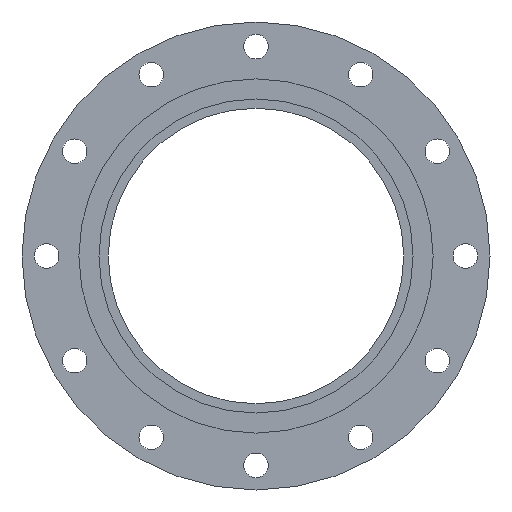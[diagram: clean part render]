
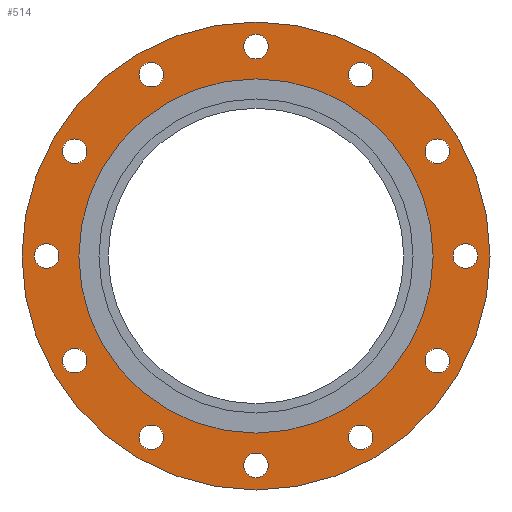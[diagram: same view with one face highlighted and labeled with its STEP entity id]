
A CAD part, left-side view. The second image highlights one B-rep face of the part: STEP entity #514.
In plain terms, the highlighted planar face has unit normal (-1, 0, 0).
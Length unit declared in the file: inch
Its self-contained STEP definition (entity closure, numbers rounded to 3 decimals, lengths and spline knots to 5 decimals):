
#14=FACE_BOUND('',#88,.T.);
#15=FACE_BOUND('',#89,.T.);
#16=FACE_BOUND('',#90,.T.);
#17=FACE_BOUND('',#91,.T.);
#18=FACE_BOUND('',#92,.T.);
#19=FACE_BOUND('',#93,.T.);
#20=FACE_BOUND('',#94,.T.);
#21=FACE_BOUND('',#95,.T.);
#22=FACE_BOUND('',#96,.T.);
#23=FACE_BOUND('',#97,.T.);
#24=FACE_BOUND('',#98,.T.);
#25=FACE_BOUND('',#99,.T.);
#26=FACE_BOUND('',#100,.T.);
#44=PLANE('',#586);
#63=FACE_OUTER_BOUND('',#87,.T.);
#87=EDGE_LOOP('',(#380,#381));
#88=EDGE_LOOP('',(#382));
#89=EDGE_LOOP('',(#383));
#90=EDGE_LOOP('',(#384));
#91=EDGE_LOOP('',(#385));
#92=EDGE_LOOP('',(#386));
#93=EDGE_LOOP('',(#387));
#94=EDGE_LOOP('',(#388));
#95=EDGE_LOOP('',(#389));
#96=EDGE_LOOP('',(#390));
#97=EDGE_LOOP('',(#391));
#98=EDGE_LOOP('',(#392));
#99=EDGE_LOOP('',(#393));
#100=EDGE_LOOP('',(#394,#395));
#165=CIRCLE('',#547,0.5);
#167=CIRCLE('',#550,0.5);
#169=CIRCLE('',#553,0.5);
#171=CIRCLE('',#556,0.5);
#173=CIRCLE('',#559,0.5);
#175=CIRCLE('',#562,0.5);
#177=CIRCLE('',#565,0.5);
#179=CIRCLE('',#568,0.5);
#181=CIRCLE('',#571,0.5);
#183=CIRCLE('',#574,0.5);
#185=CIRCLE('',#577,0.5);
#187=CIRCLE('',#580,0.5);
#188=CIRCLE('',#582,9.5);
#189=CIRCLE('',#583,9.5);
#192=CIRCLE('',#587,7.19);
#193=CIRCLE('',#588,7.19);
#213=VERTEX_POINT('',#785);
#215=VERTEX_POINT('',#791);
#217=VERTEX_POINT('',#797);
#219=VERTEX_POINT('',#803);
#221=VERTEX_POINT('',#809);
#223=VERTEX_POINT('',#815);
#225=VERTEX_POINT('',#821);
#227=VERTEX_POINT('',#827);
#229=VERTEX_POINT('',#833);
#231=VERTEX_POINT('',#839);
#233=VERTEX_POINT('',#845);
#235=VERTEX_POINT('',#851);
#236=VERTEX_POINT('',#855);
#237=VERTEX_POINT('',#856);
#240=VERTEX_POINT('',#865);
#241=VERTEX_POINT('',#866);
#262=EDGE_CURVE('',#213,#213,#165,.T.);
#265=EDGE_CURVE('',#215,#215,#167,.T.);
#268=EDGE_CURVE('',#217,#217,#169,.T.);
#271=EDGE_CURVE('',#219,#219,#171,.T.);
#274=EDGE_CURVE('',#221,#221,#173,.T.);
#277=EDGE_CURVE('',#223,#223,#175,.T.);
#280=EDGE_CURVE('',#225,#225,#177,.T.);
#283=EDGE_CURVE('',#227,#227,#179,.T.);
#286=EDGE_CURVE('',#229,#229,#181,.T.);
#289=EDGE_CURVE('',#231,#231,#183,.T.);
#292=EDGE_CURVE('',#233,#233,#185,.T.);
#295=EDGE_CURVE('',#235,#235,#187,.T.);
#296=EDGE_CURVE('',#236,#237,#188,.T.);
#297=EDGE_CURVE('',#237,#236,#189,.T.);
#301=EDGE_CURVE('',#240,#241,#192,.T.);
#302=EDGE_CURVE('',#241,#240,#193,.T.);
#380=ORIENTED_EDGE('',*,*,#296,.T.);
#381=ORIENTED_EDGE('',*,*,#297,.T.);
#382=ORIENTED_EDGE('',*,*,#262,.T.);
#383=ORIENTED_EDGE('',*,*,#265,.T.);
#384=ORIENTED_EDGE('',*,*,#268,.T.);
#385=ORIENTED_EDGE('',*,*,#271,.T.);
#386=ORIENTED_EDGE('',*,*,#274,.T.);
#387=ORIENTED_EDGE('',*,*,#277,.T.);
#388=ORIENTED_EDGE('',*,*,#280,.T.);
#389=ORIENTED_EDGE('',*,*,#283,.T.);
#390=ORIENTED_EDGE('',*,*,#286,.T.);
#391=ORIENTED_EDGE('',*,*,#289,.T.);
#392=ORIENTED_EDGE('',*,*,#292,.T.);
#393=ORIENTED_EDGE('',*,*,#295,.T.);
#394=ORIENTED_EDGE('',*,*,#301,.F.);
#395=ORIENTED_EDGE('',*,*,#302,.F.);
#514=ADVANCED_FACE('',(#63,#14,#15,#16,#17,#18,#19,#20,#21,#22,#23,#24,
#25,#26),#44,.T.);
#547=AXIS2_PLACEMENT_3D('',#787,#624,#625);
#550=AXIS2_PLACEMENT_3D('',#793,#631,#632);
#553=AXIS2_PLACEMENT_3D('',#799,#638,#639);
#556=AXIS2_PLACEMENT_3D('',#805,#645,#646);
#559=AXIS2_PLACEMENT_3D('',#811,#652,#653);
#562=AXIS2_PLACEMENT_3D('',#817,#659,#660);
#565=AXIS2_PLACEMENT_3D('',#823,#666,#667);
#568=AXIS2_PLACEMENT_3D('',#829,#673,#674);
#571=AXIS2_PLACEMENT_3D('',#835,#680,#681);
#574=AXIS2_PLACEMENT_3D('',#841,#687,#688);
#577=AXIS2_PLACEMENT_3D('',#847,#694,#695);
#580=AXIS2_PLACEMENT_3D('',#853,#701,#702);
#582=AXIS2_PLACEMENT_3D('',#857,#705,#706);
#583=AXIS2_PLACEMENT_3D('',#858,#707,#708);
#586=AXIS2_PLACEMENT_3D('',#864,#714,#715);
#587=AXIS2_PLACEMENT_3D('',#867,#716,#717);
#588=AXIS2_PLACEMENT_3D('',#868,#718,#719);
#624=DIRECTION('center_axis',(1.,0.,0.));
#625=DIRECTION('ref_axis',(0.,-0.5,0.866));
#631=DIRECTION('center_axis',(1.,0.,0.));
#632=DIRECTION('ref_axis',(0.,-0.866,0.5));
#638=DIRECTION('center_axis',(1.,0.,0.));
#639=DIRECTION('ref_axis',(0.,-1.,0.));
#645=DIRECTION('center_axis',(1.,0.,0.));
#646=DIRECTION('ref_axis',(0.,-0.866,-0.5));
#652=DIRECTION('center_axis',(1.,0.,0.));
#653=DIRECTION('ref_axis',(0.,-0.5,-0.866));
#659=DIRECTION('center_axis',(1.,0.,0.));
#660=DIRECTION('ref_axis',(0.,0.,-1.));
#666=DIRECTION('center_axis',(1.,0.,0.));
#667=DIRECTION('ref_axis',(0.,0.5,-0.866));
#673=DIRECTION('center_axis',(1.,0.,0.));
#674=DIRECTION('ref_axis',(0.,0.866,-0.5));
#680=DIRECTION('center_axis',(1.,0.,0.));
#681=DIRECTION('ref_axis',(0.,1.,0.));
#687=DIRECTION('center_axis',(1.,0.,0.));
#688=DIRECTION('ref_axis',(0.,0.866,0.5));
#694=DIRECTION('center_axis',(1.,0.,0.));
#695=DIRECTION('ref_axis',(0.,0.5,0.866));
#701=DIRECTION('center_axis',(1.,0.,0.));
#702=DIRECTION('ref_axis',(0.,0.,1.));
#705=DIRECTION('center_axis',(-1.,0.,0.));
#706=DIRECTION('ref_axis',(0.,0.,1.));
#707=DIRECTION('center_axis',(-1.,0.,0.));
#708=DIRECTION('ref_axis',(0.,0.,1.));
#714=DIRECTION('center_axis',(-1.,0.,0.));
#715=DIRECTION('ref_axis',(0.,0.,1.));
#716=DIRECTION('center_axis',(-1.,0.,0.));
#717=DIRECTION('ref_axis',(0.,0.,1.));
#718=DIRECTION('center_axis',(-1.,0.,0.));
#719=DIRECTION('ref_axis',(0.,0.,1.));
#785=CARTESIAN_POINT('',(-1.25,4.5,-7.79423));
#787=CARTESIAN_POINT('Origin',(-1.25,4.25,-7.36122));
#791=CARTESIAN_POINT('',(-1.25,7.79423,-4.5));
#793=CARTESIAN_POINT('Origin',(-1.25,7.36122,-4.25));
#797=CARTESIAN_POINT('',(-1.25,9.,0.));
#799=CARTESIAN_POINT('Origin',(-1.25,8.5,0.));
#803=CARTESIAN_POINT('',(-1.25,7.79423,4.5));
#805=CARTESIAN_POINT('Origin',(-1.25,7.36122,4.25));
#809=CARTESIAN_POINT('',(-1.25,4.5,7.79423));
#811=CARTESIAN_POINT('Origin',(-1.25,4.25,7.36122));
#815=CARTESIAN_POINT('',(-1.25,0.,9.));
#817=CARTESIAN_POINT('Origin',(-1.25,0.,8.5));
#821=CARTESIAN_POINT('',(-1.25,-4.5,7.79423));
#823=CARTESIAN_POINT('Origin',(-1.25,-4.25,7.36122));
#827=CARTESIAN_POINT('',(-1.25,-7.79423,4.5));
#829=CARTESIAN_POINT('Origin',(-1.25,-7.36122,4.25));
#833=CARTESIAN_POINT('',(-1.25,-9.,0.));
#835=CARTESIAN_POINT('Origin',(-1.25,-8.5,0.));
#839=CARTESIAN_POINT('',(-1.25,-7.79423,-4.5));
#841=CARTESIAN_POINT('Origin',(-1.25,-7.36122,-4.25));
#845=CARTESIAN_POINT('',(-1.25,-4.5,-7.79423));
#847=CARTESIAN_POINT('Origin',(-1.25,-4.25,-7.36122));
#851=CARTESIAN_POINT('',(-1.25,0.,-9.));
#853=CARTESIAN_POINT('Origin',(-1.25,0.,-8.5));
#855=CARTESIAN_POINT('',(-1.25,0.,9.5));
#856=CARTESIAN_POINT('',(-1.25,0.,-9.5));
#857=CARTESIAN_POINT('Origin',(-1.25,0.,0.));
#858=CARTESIAN_POINT('Origin',(-1.25,0.,0.));
#864=CARTESIAN_POINT('Origin',(-1.25,0.,8.345));
#865=CARTESIAN_POINT('',(-1.25,0.,7.19));
#866=CARTESIAN_POINT('',(-1.25,0.,-7.19));
#867=CARTESIAN_POINT('Origin',(-1.25,0.,0.));
#868=CARTESIAN_POINT('Origin',(-1.25,0.,0.));
